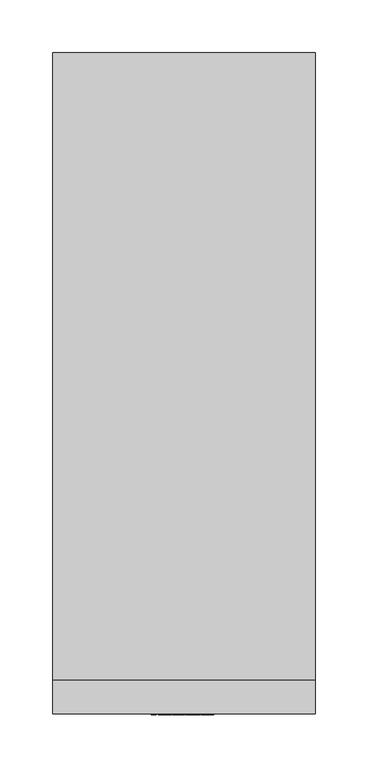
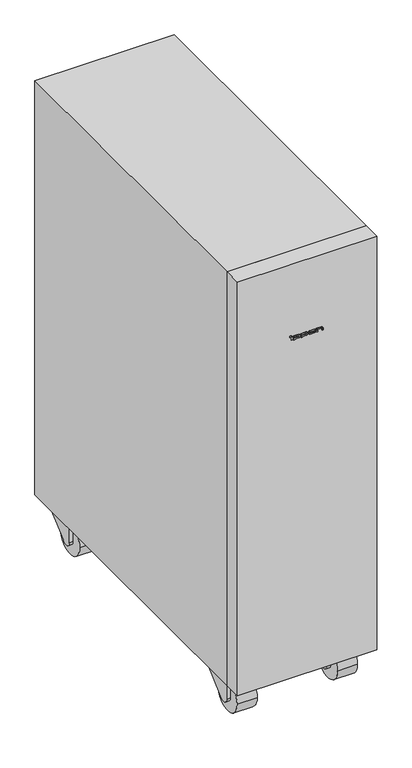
"""IFC4 building model written with IfcOpenShell, lengths in millimetres: proxy geometry, IPPON_ИБП_Innova RT 33 Tower_20000_40000_60000_80000ВА : Innova RT 33 Tower 20000 ВА."""

from ifc_helpers import new_model, si_unit, point, frame, frame_2d, origin, place, context, project, spatial, polyline, circle_curve, trimmed, segment, composite_curve, outline, extrude, source, transform, mapped, element, save
from ifc_brep_helpers import plane_surface, cylinder_surface, advanced_brep


def electrical_equipment_d4b9a717(model_context):
    return source(origin(), model_context, "Body", "SolidModel", [
        extrude(outline(polyline([(-29.1718133, -1.0), (-31.1718133, -1.0), (-31.1718133, 0.0), (-29.1718133, 0.0), (-29.1718133, -1.0)])), frame((0.0, 0.0, 718.4695835), z_axis=(0.0, 0.0, 1.0), x_axis=(1.0, 0.0, 0.0)), (0.0, 0.0, 1.0), 2.3),
        extrude(outline(polyline([(18.6035474, -1.0), (16.6035474, -1.0), (16.6035474, 0.0), (18.6035474, 0.0), (18.6035474, -1.0)])), frame((0.0, 0.0, 712.4695835), z_axis=(0.0, 0.0, 1.0), x_axis=(1.0, 0.0, 0.0)), (0.0, 0.0, 1.0), 2.2268231),
        extrude(outline(polyline([(-26.438565, -1.0), (-28.4833324, -1.0), (-28.4833324, 0.0), (-26.438565, 0.0), (-26.438565, -1.0)])), frame((0.0, 0.0, 712.4695835), z_axis=(0.0, 0.0, 1.0), x_axis=(1.0, 0.0, 0.0)), (0.0, 0.0, 1.0), 6.0),
        extrude(outline(composite_curve([segment(polyline([(716.2071435, -24.2241109), (716.2071435, -14.9923536)]), True, "CONTINUOUS"), segment(trimmed(circle_curve(frame_2d((715.3506642, -14.9923536)), 0.8564793), [point((716.2071435, -14.9923536))], [point((714.4941849, -14.9923536))], True, "CARTESIAN"), True, "CONTINUOUS"), segment(polyline([(714.4941849, -14.9923536), (714.4941849, -24.2241109), (711.0036803, -24.2241109), (711.0036803, -22.2241109), (712.4695835, -22.2241109), (712.4695835, -15.1486036)]), True, "CONTINUOUS"), segment(trimmed(circle_curve(frame_2d((715.4695835, -15.1486036)), 3.0), [point((712.4695835, -15.1486036))], [point((718.4695835, -15.1486036))], False, "CARTESIAN"), True, "CONTINUOUS"), segment(polyline([(718.4695835, -15.1486036), (718.4695835, -24.2241109), (716.2071435, -24.2241109)]), True, "CONTINUOUS")], self_intersect=False)), frame((0.0, -1.0, 0.0), z_axis=(0.0, 1.0, 0.0), x_axis=(0.0, 0.0, 1.0)), (0.0, 0.0, 1.0), 1.0),
        extrude(outline(composite_curve([segment(polyline([(716.2071435, -11.0171091), (716.2071435, -1.7853518)]), True, "CONTINUOUS"), segment(trimmed(circle_curve(frame_2d((715.3506642, -1.7853518)), 0.8564793), [point((716.2071435, -1.7853518))], [point((714.4941849, -1.7853518))], True, "CARTESIAN"), True, "CONTINUOUS"), segment(polyline([(714.4941849, -1.7853518), (714.4941849, -11.0171091), (711.0036803, -11.0171091), (711.0036803, -9.0171091), (712.4695835, -9.0171091), (712.4695835, -1.9416018)]), True, "CONTINUOUS"), segment(trimmed(circle_curve(frame_2d((715.4695835, -1.9416018)), 3.0), [point((712.4695835, -1.9416018))], [point((718.4695835, -1.9416018))], False, "CARTESIAN"), True, "CONTINUOUS"), segment(polyline([(718.4695835, -1.9416018), (718.4695835, -11.0171091), (716.2071435, -11.0171091)]), True, "CONTINUOUS")], self_intersect=False)), frame((0.0, -1.0, 0.0), z_axis=(0.0, 1.0, 0.0), x_axis=(0.0, 0.0, 1.0)), (0.0, 0.0, 1.0), 1.0),
        extrude(outline(composite_curve([segment(trimmed(circle_curve(frame_2d((715.4695835, 12.558657)), 3.0), [point((712.4695835, 12.558657))], [point((718.4695835, 12.558657))], False, "CARTESIAN"), True, "CONTINUOUS"), segment(polyline([(718.4695835, 12.558657), (718.4695835, 4.958657)]), True, "CONTINUOUS"), segment(trimmed(circle_curve(frame_2d((715.4695835, 4.958657)), 3.0), [point((718.4695835, 4.958657))], [point((712.4695835, 4.958657))], False, "CARTESIAN"), True, "CONTINUOUS"), segment(polyline([(712.4695835, 4.958657), (712.4695835, 12.558657)]), True, "CONTINUOUS")], self_intersect=False), holes=[composite_curve([segment(polyline([(714.4941849, 12.714907), (714.4941849, 4.802407)]), True, "CONTINUOUS"), segment(trimmed(circle_curve(frame_2d((715.3506642, 4.802407)), 0.8564793), [point((714.4941849, 4.802407))], [point((716.2071435, 4.802407))], True, "CARTESIAN"), True, "CONTINUOUS"), segment(polyline([(716.2071435, 4.802407), (716.2071435, 12.714907)]), True, "CONTINUOUS"), segment(trimmed(circle_curve(frame_2d((715.3506642, 12.714907)), 0.8564793), [point((716.2071435, 12.714907))], [point((714.4941849, 12.714907))], True, "CARTESIAN"), True, "CONTINUOUS")], self_intersect=False)]), frame((0.0, -1.0, 0.0), z_axis=(0.0, 1.0, 0.0), x_axis=(0.0, 0.0, 1.0)), (0.0, 0.0, 1.0), 1.0),
        extrude(outline(composite_curve([segment(polyline([(716.2071435, 16.6035474), (716.2071435, 25.8353046)]), True, "CONTINUOUS"), segment(trimmed(circle_curve(frame_2d((715.3506642, 25.8353046)), 0.8564793), [point((716.2071435, 25.8353046))], [point((715.3506642, 26.6917839))], True, "CARTESIAN"), True, "CONTINUOUS"), segment(polyline([(715.3506642, 26.6917839), (712.4695835, 26.6917839), (712.4695835, 28.6317921), (716.0, 28.6317921)]), True, "CONTINUOUS"), segment(trimmed(circle_curve(frame_2d((715.4695835, 25.6790546)), 3.0), [point((716.0, 28.6317921))], [point((718.4695835, 25.6790546))], False, "CARTESIAN"), True, "CONTINUOUS"), segment(polyline([(718.4695835, 25.6790546), (718.4695835, 16.6035474), (716.2071435, 16.6035474)]), True, "CONTINUOUS")], self_intersect=False)), frame((0.0, -1.0, 0.0), z_axis=(0.0, 1.0, 0.0), x_axis=(0.0, 0.0, 1.0)), (0.0, 0.0, 1.0), 1.0),
        advanced_brep(
        [(-108.0, 580.0, 30.0), (-108.0, 520.0, 30.0), (-108.0, 540.0, 58.2842712), (-108.0, 540.0, 30.0), (-108.0, 558.2371094, 24.3299005), (-108.0, 577.8711425, 41.0995231), (-72.0, 520.0, 30.0), (-72.0, 580.0, 30.0), (-72.0, 577.8711425, 41.0995231), (-72.0, 558.2371094, 24.3299005), (-72.0, 540.0, 30.0), (-72.0, 540.0, 58.2842712), (-115.0, 540.0, 30.0), (-115.0, 540.0, 70.0), (-115.0, 600.0, 70.0), (-115.0, 600.0, 60.0), (-115.0, 558.2371094, 24.3299005), (-65.0, 540.0, 30.0), (-65.0, 558.2371094, 24.3299005), (-65.0, 600.0, 60.0), (-65.0, 600.0, 70.0), (-65.0, 540.0, 70.0)],
        [
            (0, 1, circle_curve(frame((-108.0, 550.0, 30.0), z_axis=(-1.0, 0.0, 0.0), x_axis=(0.0, -1.0, 0.0)), 30.0)),
            (1, 2, circle_curve(frame((-108.0, 550.0, 30.0), z_axis=(-1.0, 0.0, 0.0), x_axis=(0.0, -1.0, 0.0)), 30.0)),
            (2, 3),
            (3, 4, circle_curve(frame((-108.0, 550.0, 30.0), z_axis=(1.0, 0.0, 0.0), x_axis=(0.0, -1.0, 0.0)), 10.0)),
            (4, 5),
            (5, 0, circle_curve(frame((-108.0, 550.0, 30.0), z_axis=(-1.0, 0.0, 0.0), x_axis=(0.0, -1.0, 0.0)), 30.0)),
            (6, 7, circle_curve(frame((-72.0, 550.0, 30.0), z_axis=(1.0, 0.0, 0.0), x_axis=(0.0, -1.0, 0.0)), 30.0)),
            (7, 8, circle_curve(frame((-72.0, 550.0, 30.0), z_axis=(1.0, 0.0, 0.0), x_axis=(0.0, -1.0, 0.0)), 30.0)),
            (8, 9),
            (9, 10, circle_curve(frame((-72.0, 550.0, 30.0), z_axis=(-1.0, 0.0, 0.0), x_axis=(0.0, -1.0, 0.0)), 10.0)),
            (10, 11),
            (11, 6, circle_curve(frame((-72.0, 550.0, 30.0), z_axis=(1.0, 0.0, 0.0), x_axis=(0.0, -1.0, 0.0)), 30.0)),
            (0, 7),
            (6, 1),
            (5, 8),
            (11, 2),
            (12, 13),
            (13, 14),
            (14, 15),
            (15, 16),
            (16, 12, circle_curve(frame((-115.0, 550.0, 30.0), z_axis=(-1.0, 0.0, 0.0), x_axis=(0.0, -1.0, 0.0)), 10.0)),
            (17, 18, circle_curve(frame((-65.0, 550.0, 30.0), z_axis=(1.0, 0.0, 0.0), x_axis=(0.0, -1.0, 0.0)), 10.0)),
            (18, 19),
            (19, 20),
            (20, 21),
            (21, 17),
            (12, 3),
            (10, 17),
            (21, 13),
            (20, 14),
            (19, 15),
            (18, 9),
            (4, 16),
        ],
        [
            plane_surface(frame((-108.0, 520.0, 30.0), z_axis=(-1.0, 0.0, 0.0), x_axis=(0.0, 0.0, 1.0))),
            plane_surface(frame((-72.0, 520.0, 30.0), z_axis=(1.0, 0.0, 0.0), x_axis=(0.0, 0.0, -1.0))),
            cylinder_surface(frame((-72.0, 550.0, 30.0), z_axis=(-1.0, 0.0, 0.0), x_axis=(0.0, -1.0, 0.0)), 30.0),
            plane_surface(frame((-115.0, 540.0, 70.0), z_axis=(-1.0, 0.0, 0.0), x_axis=(0.0, 0.0, 1.0))),
            plane_surface(frame((-65.0, 540.0, 70.0), z_axis=(1.0, 0.0, 0.0), x_axis=(0.0, 0.0, -1.0))),
            plane_surface(frame((-115.0, 540.0, 30.0), z_axis=(0.0, -1.0, 0.0), x_axis=(1.0, 0.0, 0.0))),
            plane_surface(frame((-115.0, 540.0, 70.0), z_axis=(0.0, 0.0, 1.0), x_axis=(1.0, 0.0, 0.0))),
            plane_surface(frame((-115.0, 600.0, 70.0), z_axis=(0.0, 1.0, 0.0), x_axis=(1.0, 0.0, 0.0))),
            plane_surface(frame((-115.0, 600.0, 60.0), z_axis=(0.0, 0.6494609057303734, -0.7603949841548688), x_axis=(1.0, 0.0, 0.0))),
            cylinder_surface(frame((-65.0, 550.0, 30.0), z_axis=(-1.0, 0.0, 0.0), x_axis=(0.0, -1.0, 0.0)), 10.0),
        ],
        [
            (0, [[1, 2, 3, 4, 5, 6]]),
            (1, [[7, 8, 9, 10, 11, 12]]),
            (2, [[-1, 13, -7, 14]]),
            (2, [[-13, -6, 15, -8]]),
            (2, [[-14, -12, 16, -2]]),
            (3, [[17, 18, 19, 20, 21]]),
            (4, [[22, 23, 24, 25, 26]]),
            (5, [[-17, 27, -3, -16, -11, 28, -26, 29]]),
            (6, [[-18, -29, -25, 30]]),
            (7, [[-19, -30, -24, 31]]),
            (8, [[-20, -31, -23, 32, -9, -15, -5, 33]]),
            (9, [[-21, -33, -4, -27]]),
            (9, [[-22, -28, -10, -32]]),
        ],
    ),
        advanced_brep(
        [(72.0, 580.0, 30.0), (72.0, 520.0, 30.0), (72.0, 540.0, 58.2842712), (72.0, 540.0, 30.0), (72.0, 558.2371094, 24.3299005), (72.0, 577.8711425, 41.0995231), (108.0, 520.0, 30.0), (108.0, 580.0, 30.0), (108.0, 577.8711425, 41.0995231), (108.0, 558.2371094, 24.3299005), (108.0, 540.0, 30.0), (108.0, 540.0, 58.2842712), (65.0, 540.0, 30.0), (65.0, 540.0, 70.0), (65.0, 600.0, 70.0), (65.0, 600.0, 60.0), (65.0, 558.2371094, 24.3299005), (115.0, 540.0, 30.0), (115.0, 558.2371094, 24.3299005), (115.0, 600.0, 60.0), (115.0, 600.0, 70.0), (115.0, 540.0, 70.0)],
        [
            (0, 1, circle_curve(frame((72.0, 550.0, 30.0), z_axis=(-1.0, 0.0, 0.0), x_axis=(0.0, -1.0, 0.0)), 30.0)),
            (1, 2, circle_curve(frame((72.0, 550.0, 30.0), z_axis=(-1.0, 0.0, 0.0), x_axis=(0.0, -1.0, 0.0)), 30.0)),
            (2, 3),
            (3, 4, circle_curve(frame((72.0, 550.0, 30.0), z_axis=(1.0, 0.0, 0.0), x_axis=(0.0, -1.0, 0.0)), 10.0)),
            (4, 5),
            (5, 0, circle_curve(frame((72.0, 550.0, 30.0), z_axis=(-1.0, 0.0, 0.0), x_axis=(0.0, -1.0, 0.0)), 30.0)),
            (6, 7, circle_curve(frame((108.0, 550.0, 30.0), z_axis=(1.0, 0.0, 0.0), x_axis=(0.0, -1.0, 0.0)), 30.0)),
            (7, 8, circle_curve(frame((108.0, 550.0, 30.0), z_axis=(1.0, 0.0, 0.0), x_axis=(0.0, -1.0, 0.0)), 30.0)),
            (8, 9),
            (9, 10, circle_curve(frame((108.0, 550.0, 30.0), z_axis=(-1.0, 0.0, 0.0), x_axis=(0.0, -1.0, 0.0)), 10.0)),
            (10, 11),
            (11, 6, circle_curve(frame((108.0, 550.0, 30.0), z_axis=(1.0, 0.0, 0.0), x_axis=(0.0, -1.0, 0.0)), 30.0)),
            (0, 7),
            (6, 1),
            (5, 8),
            (11, 2),
            (12, 13),
            (13, 14),
            (14, 15),
            (15, 16),
            (16, 12, circle_curve(frame((65.0, 550.0, 30.0), z_axis=(-1.0, 0.0, 0.0), x_axis=(0.0, -1.0, 0.0)), 10.0)),
            (17, 18, circle_curve(frame((115.0, 550.0, 30.0), z_axis=(1.0, 0.0, 0.0), x_axis=(0.0, -1.0, 0.0)), 10.0)),
            (18, 19),
            (19, 20),
            (20, 21),
            (21, 17),
            (12, 3),
            (10, 17),
            (21, 13),
            (20, 14),
            (19, 15),
            (18, 9),
            (4, 16),
        ],
        [
            plane_surface(frame((72.0, 520.0, 30.0), z_axis=(-1.0, 0.0, 0.0), x_axis=(0.0, 0.0, 1.0))),
            plane_surface(frame((108.0, 520.0, 30.0), z_axis=(1.0, 0.0, 0.0), x_axis=(0.0, 0.0, -1.0))),
            cylinder_surface(frame((108.0, 550.0, 30.0), z_axis=(-1.0, 0.0, 0.0), x_axis=(0.0, -1.0, 0.0)), 30.0),
            plane_surface(frame((65.0, 540.0, 70.0), z_axis=(-1.0, 0.0, 0.0), x_axis=(0.0, 0.0, 1.0))),
            plane_surface(frame((115.0, 540.0, 70.0), z_axis=(1.0, 0.0, 0.0), x_axis=(0.0, 0.0, -1.0))),
            plane_surface(frame((65.0, 540.0, 30.0), z_axis=(0.0, -1.0, 0.0), x_axis=(1.0, 0.0, 0.0))),
            plane_surface(frame((65.0, 540.0, 70.0), z_axis=(0.0, 0.0, 1.0), x_axis=(1.0, 0.0, 0.0))),
            plane_surface(frame((65.0, 600.0, 70.0), z_axis=(0.0, 1.0, 0.0), x_axis=(1.0, 0.0, 0.0))),
            plane_surface(frame((65.0, 600.0, 60.0), z_axis=(0.0, 0.6494609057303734, -0.7603949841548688), x_axis=(1.0, 0.0, 0.0))),
            cylinder_surface(frame((115.0, 550.0, 30.0), z_axis=(-1.0, 0.0, 0.0), x_axis=(0.0, -1.0, 0.0)), 10.0),
        ],
        [
            (0, [[1, 2, 3, 4, 5, 6]]),
            (1, [[7, 8, 9, 10, 11, 12]]),
            (2, [[-1, 13, -7, 14]]),
            (2, [[-13, -6, 15, -8]]),
            (2, [[-14, -12, 16, -2]]),
            (3, [[17, 18, 19, 20, 21]]),
            (4, [[22, 23, 24, 25, 26]]),
            (5, [[-17, 27, -3, -16, -11, 28, -26, 29]]),
            (6, [[-18, -29, -25, 30]]),
            (7, [[-19, -30, -24, 31]]),
            (8, [[-20, -31, -23, 32, -9, -15, -5, 33]]),
            (9, [[-21, -33, -4, -27]]),
            (9, [[-22, -28, -10, -32]]),
        ],
    ),
        advanced_brep(
        [(-108.0, 90.0, 30.0), (-108.0, 30.0, 30.0), (-108.0, 50.0, 58.2842712), (-108.0, 50.0, 30.0), (-108.0, 68.2371094, 24.3299005), (-108.0, 87.8711425, 41.0995231), (-72.0, 30.0, 30.0), (-72.0, 90.0, 30.0), (-72.0, 87.8711425, 41.0995231), (-72.0, 68.2371094, 24.3299005), (-72.0, 50.0, 30.0), (-72.0, 50.0, 58.2842712), (-115.0, 50.0, 30.0), (-115.0, 50.0, 70.0), (-115.0, 110.0, 70.0), (-115.0, 110.0, 60.0), (-115.0, 68.2371094, 24.3299005), (-65.0, 50.0, 30.0), (-65.0, 68.2371094, 24.3299005), (-65.0, 110.0, 60.0), (-65.0, 110.0, 70.0), (-65.0, 50.0, 70.0)],
        [
            (0, 1, circle_curve(frame((-108.0, 60.0, 30.0), z_axis=(-1.0, 0.0, 0.0), x_axis=(0.0, -1.0, 0.0)), 30.0)),
            (1, 2, circle_curve(frame((-108.0, 60.0, 30.0), z_axis=(-1.0, 0.0, 0.0), x_axis=(0.0, -1.0, 0.0)), 30.0)),
            (2, 3),
            (3, 4, circle_curve(frame((-108.0, 60.0, 30.0), z_axis=(1.0, 0.0, 0.0), x_axis=(0.0, -1.0, 0.0)), 10.0)),
            (4, 5),
            (5, 0, circle_curve(frame((-108.0, 60.0, 30.0), z_axis=(-1.0, 0.0, 0.0), x_axis=(0.0, -1.0, 0.0)), 30.0)),
            (6, 7, circle_curve(frame((-72.0, 60.0, 30.0), z_axis=(1.0, 0.0, 0.0), x_axis=(0.0, -1.0, 0.0)), 30.0)),
            (7, 8, circle_curve(frame((-72.0, 60.0, 30.0), z_axis=(1.0, 0.0, 0.0), x_axis=(0.0, -1.0, 0.0)), 30.0)),
            (8, 9),
            (9, 10, circle_curve(frame((-72.0, 60.0, 30.0), z_axis=(-1.0, 0.0, 0.0), x_axis=(0.0, -1.0, 0.0)), 10.0)),
            (10, 11),
            (11, 6, circle_curve(frame((-72.0, 60.0, 30.0), z_axis=(1.0, 0.0, 0.0), x_axis=(0.0, -1.0, 0.0)), 30.0)),
            (0, 7),
            (6, 1),
            (5, 8),
            (11, 2),
            (12, 13),
            (13, 14),
            (14, 15),
            (15, 16),
            (16, 12, circle_curve(frame((-115.0, 60.0, 30.0), z_axis=(-1.0, 0.0, 0.0), x_axis=(0.0, -1.0, 0.0)), 10.0)),
            (17, 18, circle_curve(frame((-65.0, 60.0, 30.0), z_axis=(1.0, 0.0, 0.0), x_axis=(0.0, -1.0, 0.0)), 10.0)),
            (18, 19),
            (19, 20),
            (20, 21),
            (21, 17),
            (12, 3),
            (10, 17),
            (21, 13),
            (20, 14),
            (19, 15),
            (18, 9),
            (4, 16),
        ],
        [
            plane_surface(frame((-108.0, 30.0, 30.0), z_axis=(-1.0, 0.0, 0.0), x_axis=(0.0, 0.0, 1.0))),
            plane_surface(frame((-72.0, 30.0, 30.0), z_axis=(1.0, 0.0, 0.0), x_axis=(0.0, 0.0, -1.0))),
            cylinder_surface(frame((-72.0, 60.0, 30.0), z_axis=(-1.0, 0.0, 0.0), x_axis=(0.0, -1.0, 0.0)), 30.0),
            plane_surface(frame((-115.0, 50.0, 70.0), z_axis=(-1.0, 0.0, 0.0), x_axis=(0.0, 0.0, 1.0))),
            plane_surface(frame((-65.0, 50.0, 70.0), z_axis=(1.0, 0.0, 0.0), x_axis=(0.0, 0.0, -1.0))),
            plane_surface(frame((-115.0, 50.0, 30.0), z_axis=(0.0, -1.0, 0.0), x_axis=(1.0, 0.0, 0.0))),
            plane_surface(frame((-115.0, 50.0, 70.0), z_axis=(0.0, 0.0, 1.0), x_axis=(1.0, 0.0, 0.0))),
            plane_surface(frame((-115.0, 110.0, 70.0), z_axis=(0.0, 1.0, 0.0), x_axis=(1.0, 0.0, 0.0))),
            plane_surface(frame((-115.0, 110.0, 60.0), z_axis=(0.0, 0.6494609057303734, -0.7603949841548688), x_axis=(1.0, 0.0, 0.0))),
            cylinder_surface(frame((-65.0, 60.0, 30.0), z_axis=(-1.0, 0.0, 0.0), x_axis=(0.0, -1.0, 0.0)), 10.0),
        ],
        [
            (0, [[1, 2, 3, 4, 5, 6]]),
            (1, [[7, 8, 9, 10, 11, 12]]),
            (2, [[-1, 13, -7, 14]]),
            (2, [[-13, -6, 15, -8]]),
            (2, [[-14, -12, 16, -2]]),
            (3, [[17, 18, 19, 20, 21]]),
            (4, [[22, 23, 24, 25, 26]]),
            (5, [[-17, 27, -3, -16, -11, 28, -26, 29]]),
            (6, [[-18, -29, -25, 30]]),
            (7, [[-19, -30, -24, 31]]),
            (8, [[-20, -31, -23, 32, -9, -15, -5, 33]]),
            (9, [[-21, -33, -4, -27]]),
            (9, [[-22, -28, -10, -32]]),
        ],
    ),
        advanced_brep(
        [(72.0, 90.0, 30.0), (72.0, 30.0, 30.0), (72.0, 50.0, 58.2842712), (72.0, 50.0, 30.0), (72.0, 68.2371094, 24.3299005), (72.0, 87.8711425, 41.0995231), (108.0, 30.0, 30.0), (108.0, 90.0, 30.0), (108.0, 87.8711425, 41.0995231), (108.0, 68.2371094, 24.3299005), (108.0, 50.0, 30.0), (108.0, 50.0, 58.2842712), (65.0, 50.0, 30.0), (65.0, 50.0, 70.0), (65.0, 110.0, 70.0), (65.0, 110.0, 60.0), (65.0, 68.2371094, 24.3299005), (115.0, 50.0, 30.0), (115.0, 68.2371094, 24.3299005), (115.0, 110.0, 60.0), (115.0, 110.0, 70.0), (115.0, 50.0, 70.0)],
        [
            (0, 1, circle_curve(frame((72.0, 60.0, 30.0), z_axis=(-1.0, 0.0, 0.0), x_axis=(0.0, -1.0, 0.0)), 30.0)),
            (1, 2, circle_curve(frame((72.0, 60.0, 30.0), z_axis=(-1.0, 0.0, 0.0), x_axis=(0.0, -1.0, 0.0)), 30.0)),
            (2, 3),
            (3, 4, circle_curve(frame((72.0, 60.0, 30.0), z_axis=(1.0, 0.0, 0.0), x_axis=(0.0, -1.0, 0.0)), 10.0)),
            (4, 5),
            (5, 0, circle_curve(frame((72.0, 60.0, 30.0), z_axis=(-1.0, 0.0, 0.0), x_axis=(0.0, -1.0, 0.0)), 30.0)),
            (6, 7, circle_curve(frame((108.0, 60.0, 30.0), z_axis=(1.0, 0.0, 0.0), x_axis=(0.0, -1.0, 0.0)), 30.0)),
            (7, 8, circle_curve(frame((108.0, 60.0, 30.0), z_axis=(1.0, 0.0, 0.0), x_axis=(0.0, -1.0, 0.0)), 30.0)),
            (8, 9),
            (9, 10, circle_curve(frame((108.0, 60.0, 30.0), z_axis=(-1.0, 0.0, 0.0), x_axis=(0.0, -1.0, 0.0)), 10.0)),
            (10, 11),
            (11, 6, circle_curve(frame((108.0, 60.0, 30.0), z_axis=(1.0, 0.0, 0.0), x_axis=(0.0, -1.0, 0.0)), 30.0)),
            (0, 7),
            (6, 1),
            (5, 8),
            (11, 2),
            (12, 13),
            (13, 14),
            (14, 15),
            (15, 16),
            (16, 12, circle_curve(frame((65.0, 60.0, 30.0), z_axis=(-1.0, 0.0, 0.0), x_axis=(0.0, -1.0, 0.0)), 10.0)),
            (17, 18, circle_curve(frame((115.0, 60.0, 30.0), z_axis=(1.0, 0.0, 0.0), x_axis=(0.0, -1.0, 0.0)), 10.0)),
            (18, 19),
            (19, 20),
            (20, 21),
            (21, 17),
            (12, 3),
            (10, 17),
            (21, 13),
            (20, 14),
            (19, 15),
            (18, 9),
            (4, 16),
        ],
        [
            plane_surface(frame((72.0, 30.0, 30.0), z_axis=(-1.0, 0.0, 0.0), x_axis=(0.0, 0.0, 1.0))),
            plane_surface(frame((108.0, 30.0, 30.0), z_axis=(1.0, 0.0, 0.0), x_axis=(0.0, 0.0, -1.0))),
            cylinder_surface(frame((108.0, 60.0, 30.0), z_axis=(-1.0, 0.0, 0.0), x_axis=(0.0, -1.0, 0.0)), 30.0),
            plane_surface(frame((65.0, 50.0, 70.0), z_axis=(-1.0, 0.0, 0.0), x_axis=(0.0, 0.0, 1.0))),
            plane_surface(frame((115.0, 50.0, 70.0), z_axis=(1.0, 0.0, 0.0), x_axis=(0.0, 0.0, -1.0))),
            plane_surface(frame((65.0, 50.0, 30.0), z_axis=(0.0, -1.0, 0.0), x_axis=(1.0, 0.0, 0.0))),
            plane_surface(frame((65.0, 50.0, 70.0), z_axis=(0.0, 0.0, 1.0), x_axis=(1.0, 0.0, 0.0))),
            plane_surface(frame((65.0, 110.0, 70.0), z_axis=(0.0, 1.0, 0.0), x_axis=(1.0, 0.0, 0.0))),
            plane_surface(frame((65.0, 110.0, 60.0), z_axis=(0.0, 0.6494609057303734, -0.7603949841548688), x_axis=(1.0, 0.0, 0.0))),
            cylinder_surface(frame((115.0, 60.0, 30.0), z_axis=(-1.0, 0.0, 0.0), x_axis=(0.0, -1.0, 0.0)), 10.0),
        ],
        [
            (0, [[1, 2, 3, 4, 5, 6]]),
            (1, [[7, 8, 9, 10, 11, 12]]),
            (2, [[-1, 13, -7, 14]]),
            (2, [[-13, -6, 15, -8]]),
            (2, [[-14, -12, 16, -2]]),
            (3, [[17, 18, 19, 20, 21]]),
            (4, [[22, 23, 24, 25, 26]]),
            (5, [[-17, 27, -3, -16, -11, 28, -26, 29]]),
            (6, [[-18, -29, -25, 30]]),
            (7, [[-19, -30, -24, 31]]),
            (8, [[-20, -31, -23, 32, -9, -15, -5, 33]]),
            (9, [[-21, -33, -4, -27]]),
            (9, [[-22, -28, -10, -32]]),
        ],
    ),
        extrude(outline(polyline([(125.0, 0.0), (-125.0, 0.0), (-125.0, 32.0), (125.0, 32.0), (125.0, 0.0)])), frame((0.0, 0.0, 70.0), z_axis=(0.0, 0.0, 1.0), x_axis=(1.0, 0.0, 0.0)), (0.0, 0.0, 1.0), 786.0),
        extrude(outline(polyline([(125.0, 32.0), (-125.0, 32.0), (-125.0, 630.0), (125.0, 630.0), (125.0, 32.0)])), frame((0.0, 0.0, 70.0), z_axis=(0.0, 0.0, 1.0), x_axis=(1.0, 0.0, 0.0)), (0.0, 0.0, 1.0), 786.0),
    ])


if __name__ == "__main__":
    model = new_model("IFC4")
    model_context = context("Model", 3, world=origin())
    ifc_project = project(units=[si_unit("LENGTHUNIT", "METRE", prefix="MILLI")], contexts=[model_context])
    site = spatial("IfcSite", under=ifc_project)
    building = spatial("IfcBuilding", under=site)
    placement = place(None, origin())
    electrical_equipment_shape = electrical_equipment_d4b9a717(model_context)
    element("IfcBuildingElementProxy", 1, Name="IPPON_ИБП_Innova RT 33 Tower_20000_40000_60000_80000ВА : Innova RT 33 Tower 20000 ВА", ObjectType="IPPON_ИБП_Innova RT 33 Tower_20000_40000_60000_80000ВА : Innova RT 33 Tower 20000 ВА", at=placement, inside=building, context=model_context, shape_type="MappedRepresentation", body=[
        mapped(electrical_equipment_shape, transform((0.0, 0.0, 0.0), x_axis=(1.0, 0.0, 0.0), y_axis=(0.0, 1.0, 0.0), z_axis=(0.0, 0.0, 1.0))),
    ])
    save(model, "model.ifc")
